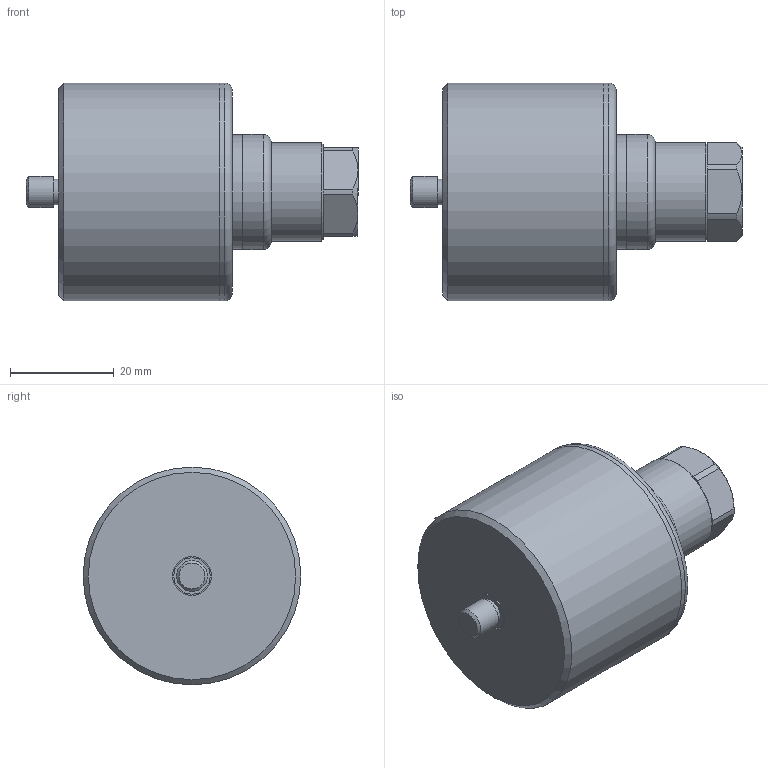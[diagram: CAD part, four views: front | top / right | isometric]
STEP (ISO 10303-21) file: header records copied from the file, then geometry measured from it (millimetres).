
FILE_DESCRIPTION(/* description */ (''),/* implementation_level */ '2;1');
FILE_NAME(/* name */ 'Z:\Engineering\Drawings\3D Library\Assemblies\Website\Triaxial Top\Premium\HS-173 Round PUR\HS-173RXXX0106.stp',/* time_stamp */ '2023-03-25T19:56:44+00:00',/* author */ ('Ricardo.Peneda'),/* organization */ (''),/* preprocessor_version */ 'ST-DEVELOPER v18.1',/* originating_system */ 'Autodesk Inventor 2021',/* authorisation */ '');
FILE_SCHEMA (('AUTOMOTIVE_DESIGN { 1 0 10303 214 3 1 1 }'));
Length unit declared in the file: inch
Products named in the file (1): HS-173RXXX0106_Shrinkwrap_1
Bounding box: 64.05 x 42 x 42 mm (x, y, z)
Volume: 50336.1 mm3; surface area: 13845 mm2
Topology: 5 solids, 5 shells, 77 faces, 188 edges, 135 vertices
Faces by surface type: plane 30, cylinder 29, cone 14, sphere 2, torus 2
Full cylindrical faces by diameter (mm): 5 x2, 5.359 x1, 6 x1, 6.35 x1, 7 x1, 7.5 x1, 9 x1, 12 x2, 14 x1, 15 x2, 18 x1, 19 x1, 19.95 x1, 20 x1, 22 x1, 22.2 x1, 40 x1, 42 x2
Entity records: 2484 total; most frequent: DIRECTION 454, CARTESIAN_POINT 423, ORIENTED_EDGE 372, AXIS2_PLACEMENT_3D 202, EDGE_CURVE 186, VERTEX_POINT 135, CIRCLE 124, EDGE_LOOP 99
